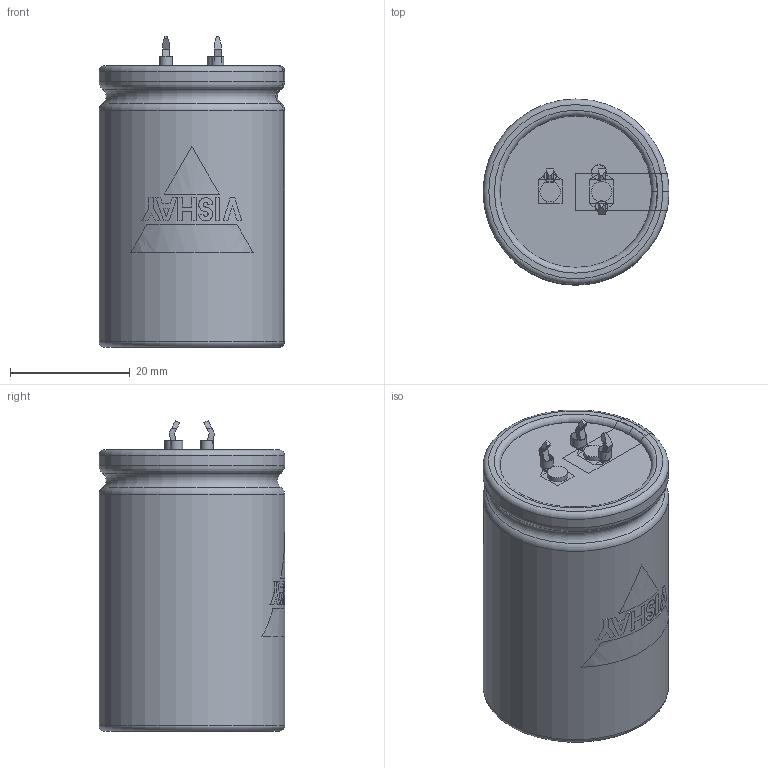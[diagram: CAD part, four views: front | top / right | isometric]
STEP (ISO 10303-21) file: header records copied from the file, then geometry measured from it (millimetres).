
FILE_DESCRIPTION(('FreeCAD Model'),'2;1');
FILE_NAME( 'C:/Users/Gebruiker/Documents/FreeCAD/SnapIn_30x45_3pin_4.0.step', '2020-11-12T21:12:35',('Author'),(''), 'Open CASCADE STEP processor 6.8','FreeCAD','Unknown');
FILE_SCHEMA(('AUTOMOTIVE_DESIGN_CC2 { 1 2 10303 214 -1 1 5 4 }'));
Length unit declared in the file: millimetre
Products named in the file (9): ASSEMBLY; TerminalPlus; Disc; BottomInsulation; Can3D; InkMinusBar; InkLogo; TerminalMinKP; PCBHolesKP
Assembly tree (8 placements, depth 2):
  ASSEMBLY
    TerminalPlus
    Disc
    BottomInsulation
    Can3D
    InkMinusBar
    InkLogo
    TerminalMinKP
    PCBHolesKP
Bounding box: 31.05 x 31.05 x 51.95 mm (x, y, z)
Volume: 40128.9 mm3; surface area: 14499.1 mm2
Topology: 17 solids, 17 shells, 213 faces, 525 edges, 343 vertices
Faces by surface type: plane 164, cylinder 31, torus 18
Full cylindrical faces by diameter (mm): 2 x2, 2.1 x2, 2.5 x1, 2.6 x1, 3.4 x2, 24.8 x2, 25.3 x1, 31 x2
Entity records: 21705 total; most frequent: CARTESIAN_POINT 10016, DIRECTION 1804, ORIENTED_EDGE 1050, PCURVE 1050, DEFINITIONAL_REPRESENTATION 1050, LINE 1013, VECTOR 1013, EDGE_CURVE 525
